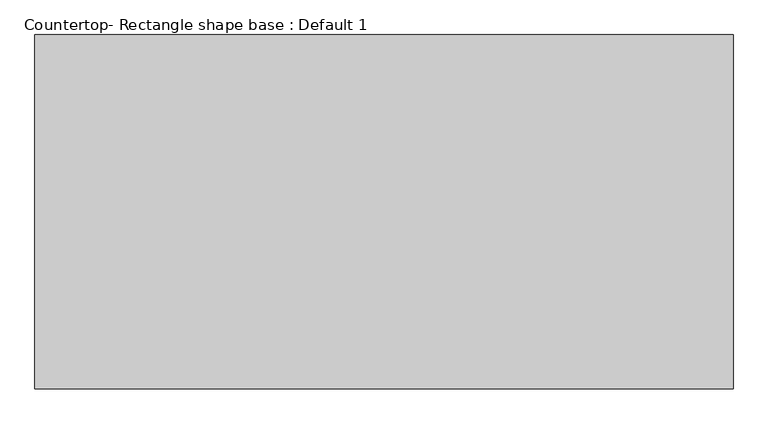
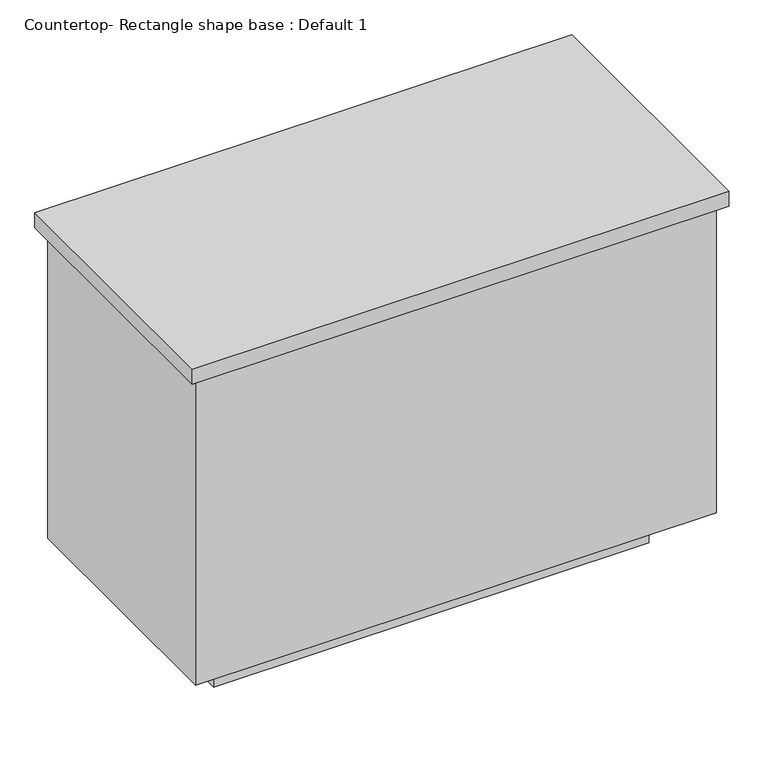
"""IFC4 building model written with IfcOpenShell, lengths in millimetres: proxy geometry, Countertop- Rectangle shape base : Default 1."""

from ifc_helpers import new_model, si_unit, frame, origin, origin_with_axes, place, context, project, spatial, polyline, outline, extrude, source, transform, mapped, element, save


def countertop_rectangle_shape_base_default_1_3d43212e(model_context):
    return source(origin(), model_context, "Body", "SweptSolid", [
        extrude(outline(polyline([(123.825, 57.15), (123.825, 704.85), (1400.175, 704.85), (1400.175, 57.15), (123.825, 57.15)])), frame((0.0, 0.0, 876.3), z_axis=(0.0, 0.0, 1.0), x_axis=(1.0, 0.0, 0.0)), (0.0, 0.0, 1.0), 38.1),
        extrude(outline(polyline([(1381.125, 685.8), (1381.125, 76.2), (142.875, 76.2), (142.875, 685.8), (1381.125, 685.8)])), frame((0.0, 0.0, 101.6), z_axis=(0.0, 0.0, 1.0), x_axis=(1.0, 0.0, 0.0)), (0.0, 0.0, 1.0), 774.7),
        extrude(outline(polyline([(1279.525, 584.2), (1279.525, 177.8), (244.475, 177.8), (244.475, 584.2), (1279.525, 584.2)])), origin_with_axes(), (0.0, 0.0, 1.0), 101.6),
    ])


if __name__ == "__main__":
    model = new_model("IFC4")
    model_context = context("Model", 3, world=origin())
    ifc_project = project(units=[si_unit("LENGTHUNIT", "METRE", prefix="MILLI")], contexts=[model_context])
    site = spatial("IfcSite", under=ifc_project)
    building = spatial("IfcBuilding", under=site)
    placement = place(None, origin())
    countertop_rectangle_shape_base_default_1_shape = countertop_rectangle_shape_base_default_1_3d43212e(model_context)
    element("IfcBuildingElementProxy", 1, Name="Countertop- Rectangle shape base : Default 1", ObjectType="Countertop- Rectangle shape base : Default 1", at=placement, inside=building, context=model_context, shape_type="MappedRepresentation", body=[
        mapped(countertop_rectangle_shape_base_default_1_shape, transform((0.0, 0.0, 0.0), x_axis=(1.0, 0.0, 0.0), y_axis=(0.0, 1.0, 0.0), z_axis=(0.0, 0.0, 1.0))),
    ])
    save(model, "model.ifc")
